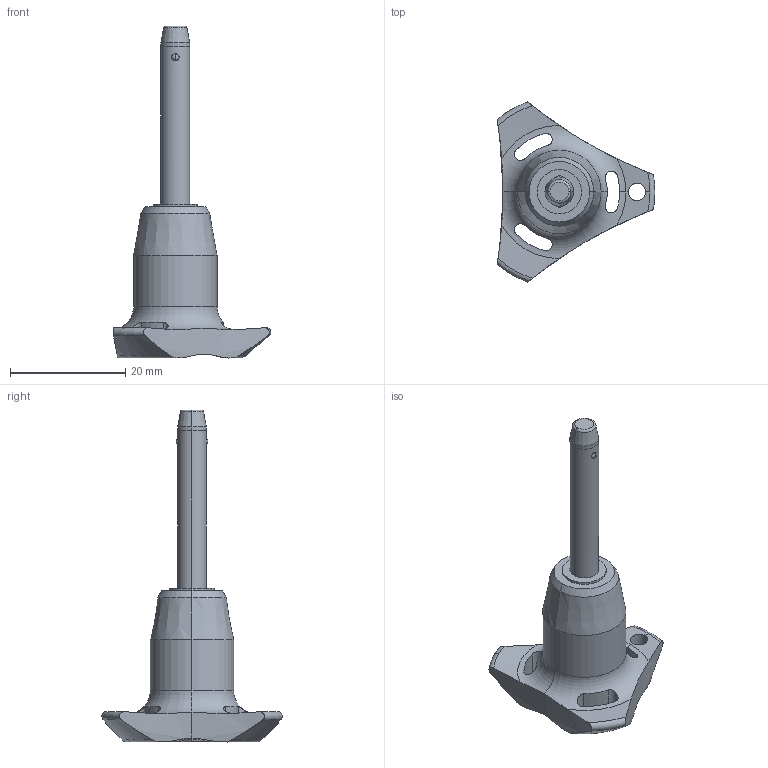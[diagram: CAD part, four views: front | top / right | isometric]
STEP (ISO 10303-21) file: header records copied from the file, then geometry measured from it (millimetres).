
FILE_DESCRIPTION (( 'STEP AP203' ), '1' );
FILE_NAME ('QR1716.M05-025-T.step', '2025-11-13T10:23:59', ( '' ), ( '' ), 'SwSTEP 2.0', 'SolidWorks 2019', '' );
FILE_SCHEMA (( 'CONFIG_CONTROL_DESIGN' ));
Length unit declared in the file: millimetre
Products named in the file (1): QR1716.M05-025-T
Bounding box: 27.4 x 31.31 x 57.7 mm (x, y, z)
Volume: 5358.8 mm3; surface area: 2901.1 mm2
Topology: 1 solids, 1 shells, 69 faces, 187 edges, 119 vertices
Faces by surface type: cylinder 32, cone 14, torus 12, sphere 6, plane 5
Entity records: 2773 total; most frequent: CARTESIAN_POINT 994, ORIENTED_EDGE 374, DIRECTION 348, EDGE_CURVE 187, AXIS2_PLACEMENT_3D 155, VERTEX_POINT 119, CIRCLE 85, EDGE_LOOP 76
